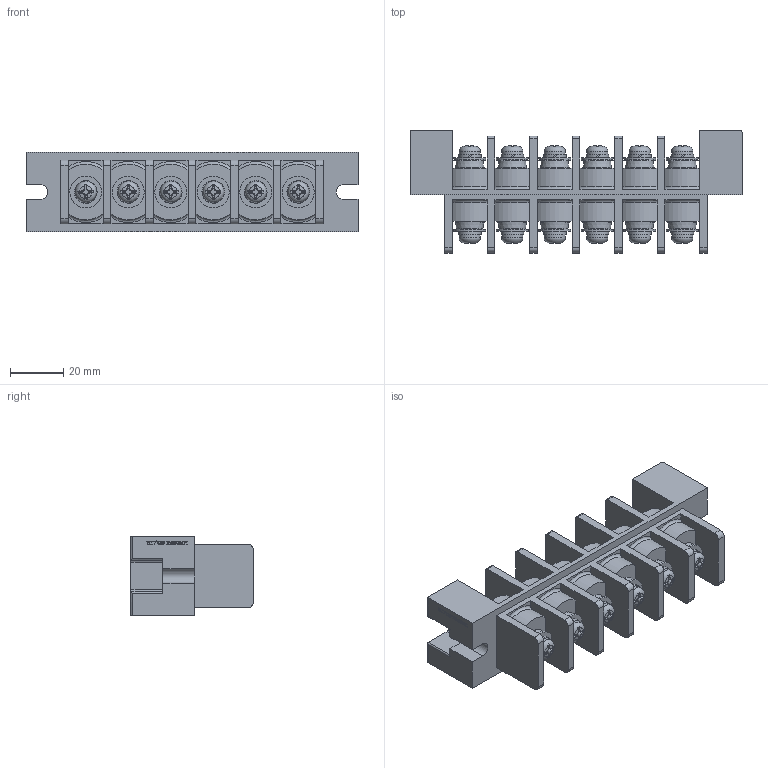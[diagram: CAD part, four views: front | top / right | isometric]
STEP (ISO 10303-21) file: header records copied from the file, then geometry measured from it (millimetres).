
FILE_DESCRIPTION(/* description */ ('Alibre Inc.'),/* implementation_level */ '2;1');
FILE_NAME(/* name */ 'export0',/* time_stamp */ '2016-01-14T19:29:27+09:00',/* author */ (''),/* organization */ (''),/* preprocessor_version */ 'ST-DEVELOPER v14',/* originating_system */ 'Alibre',/* authorisation */ '');
FILE_SCHEMA (('CONFIG_CONTROL_DESIGN'));
Length unit declared in the file: centimetre
Products named in the file (1): ID_1
Bounding box: 125 x 46 x 30 mm (x, y, z)
Volume: 78023.6 mm3; surface area: 32532.2 mm2
Topology: 1 solids, 19 shells, 888 faces, 2346 edges, 1543 vertices
Faces by surface type: plane 490, cylinder 166, cone 96, bspline 52, sphere 48, torus 36
Full cylindrical faces by diameter (mm): 4.55 x2, 5 x18, 8 x12, 10.75 x12, 12 x12
Entity records: 27254 total; most frequent: CARTESIAN_POINT 7468, ORIENTED_EDGE 4362, DIRECTION 3287, EDGE_CURVE 2181, VERTEX_POINT 1494, AXIS2_PLACEMENT_3D 1321, VECTOR 1129, LINE 1129
